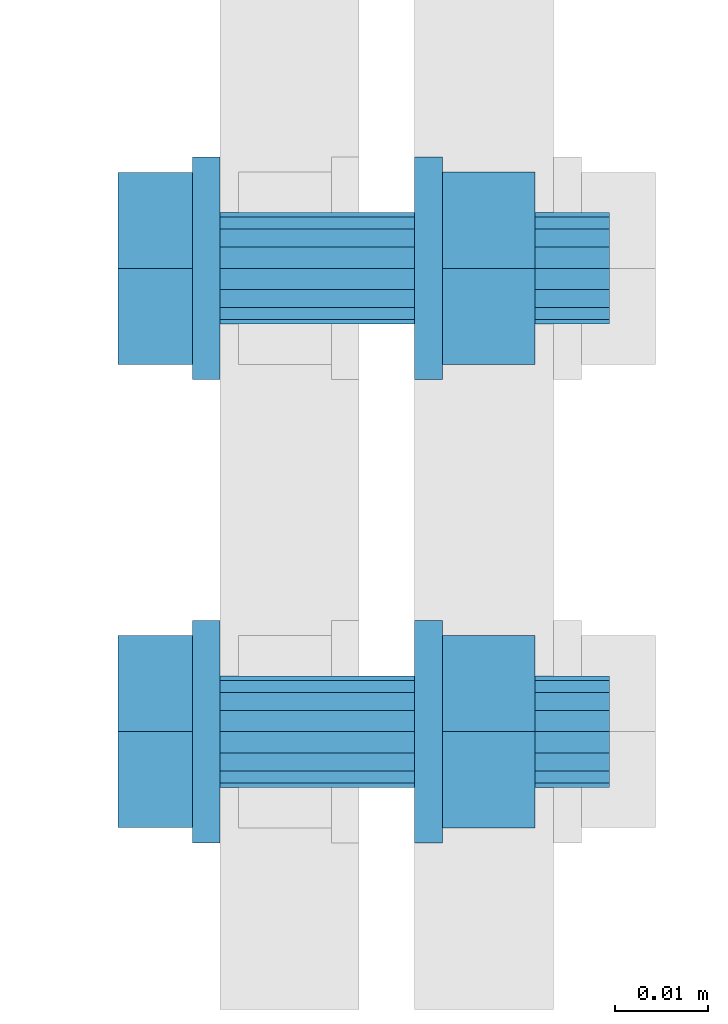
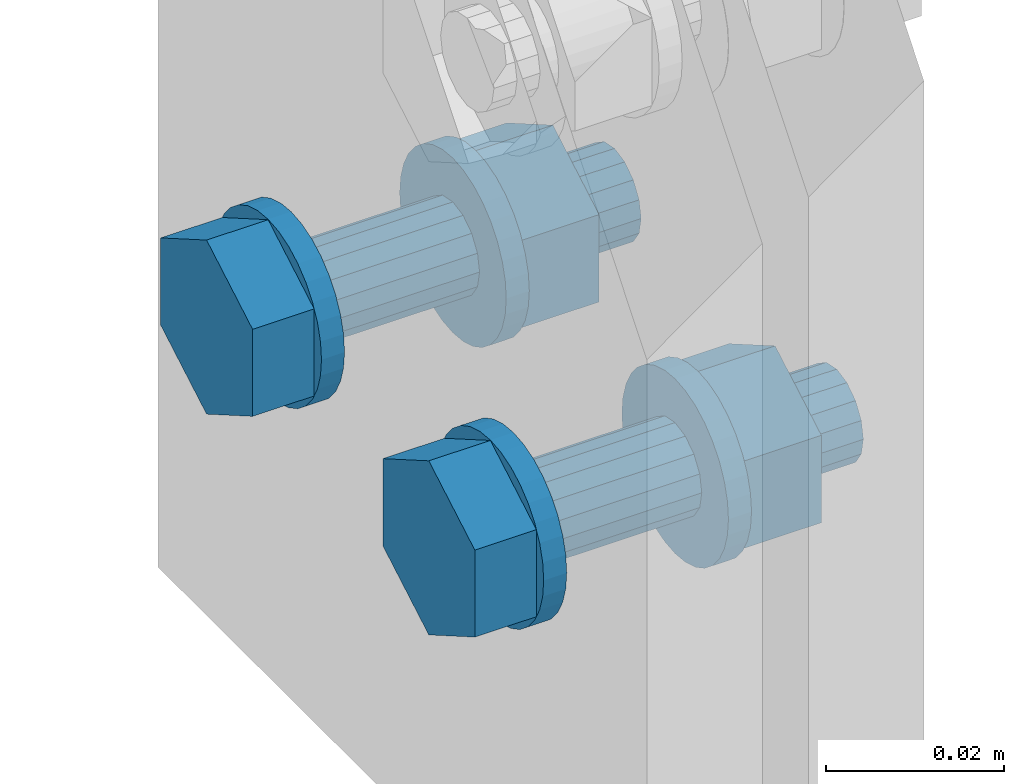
# One storey, part 9 of 13: 2 mechanical fasteners.
"""IFC4X3_ADD2 building model written with IfcOpenShell, lengths in millimetres."""

from ifc_helpers import new_model, entity, si_unit, converted_unit, derived_unit, direction, origin, place, context, project, spatial, faceted_brep, element, save


model = new_model("IFC4X3_ADD2")

# Units and contexts
model_context = context("Model", 3, precision=0.01, world=origin(), true_north=direction((6.123233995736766e-17, 1.0)))
plan_context = context("Plan", 3, precision=0.01, world=origin(), true_north=direction((6.123233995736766e-17, 1.0)))
ifc_project = project(units=[si_unit("LENGTHUNIT", "METRE", prefix="MILLI"), converted_unit("PLANEANGLEUNIT", "DEGREE", entity("IfcPlaneAngleMeasure", 0.017453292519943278), si_unit("PLANEANGLEUNIT", "RADIAN"), dimensions=[0, 0, 0, 0, 0, 0, 0]), si_unit("AREAUNIT", "SQUARE_METRE"), si_unit("VOLUMEUNIT", "CUBIC_METRE"), derived_unit("THERMALTRANSMITTANCEUNIT", [(si_unit("MASSUNIT", "GRAM", prefix="KILO"), 1), (si_unit("THERMODYNAMICTEMPERATUREUNIT", "KELVIN"), -1), (si_unit("TIMEUNIT", "SECOND"), -3)]), derived_unit("USERDEFINED", [(si_unit("MASSUNIT", "GRAM", prefix="KILO"), 1), (si_unit("THERMODYNAMICTEMPERATUREUNIT", "KELVIN"), -1), (si_unit("TIMEUNIT", "SECOND"), -2)]), derived_unit("THERMALRESISTANCEUNIT", [(si_unit("MASSUNIT", "GRAM", prefix="KILO"), -1), (si_unit("TIMEUNIT", "SECOND"), 3), (si_unit("THERMODYNAMICTEMPERATUREUNIT", "KELVIN"), 1)]), si_unit("MASSUNIT", "GRAM", prefix="KILO"), derived_unit("MOMENTOFINERTIAUNIT", [(si_unit("LENGTHUNIT", "METRE"), 4)]), derived_unit("LINEARFORCEUNIT", [(si_unit("MASSUNIT", "GRAM", prefix="KILO"), 1), (si_unit("TIMEUNIT", "SECOND"), -2)]), derived_unit("WARPINGCONSTANTUNIT", [(si_unit("LENGTHUNIT", "METRE"), 6)]), si_unit("PRESSUREUNIT", "PASCAL"), derived_unit("MASSDENSITYUNIT", [(si_unit("MASSUNIT", "GRAM", prefix="KILO"), 1), (si_unit("LENGTHUNIT", "METRE"), -3)]), derived_unit("MODULUSOFELASTICITYUNIT", [(si_unit("MASSUNIT", "GRAM", prefix="KILO"), 1), (si_unit("TIMEUNIT", "SECOND"), -2), (si_unit("LENGTHUNIT", "METRE"), -1)]), derived_unit("THERMALEXPANSIONCOEFFICIENTUNIT", [(si_unit("THERMODYNAMICTEMPERATUREUNIT", "KELVIN"), -1)]), derived_unit("VAPORPERMEABILITYUNIT", [(si_unit("LENGTHUNIT", "METRE"), -1), (si_unit("TIMEUNIT", "SECOND"), 1)]), derived_unit("USERDEFINED", [(si_unit("MASSUNIT", "GRAM", prefix="KILO"), 1), (si_unit("TIMEUNIT", "SECOND"), -3), (si_unit("LENGTHUNIT", "METRE"), 3), (si_unit("ELECTRICCURRENTUNIT", "AMPERE"), -2)]), derived_unit("SPECIFICHEATCAPACITYUNIT", [(si_unit("THERMODYNAMICTEMPERATUREUNIT", "KELVIN"), -1), (si_unit("TIMEUNIT", "SECOND"), -2), (si_unit("LENGTHUNIT", "METRE"), 2)]), derived_unit("THERMALCONDUCTANCEUNIT", [(si_unit("MASSUNIT", "GRAM", prefix="KILO"), 1), (si_unit("THERMODYNAMICTEMPERATUREUNIT", "KELVIN"), -1), (si_unit("TIMEUNIT", "SECOND"), -3), (si_unit("LENGTHUNIT", "METRE"), 1)])], contexts=[model_context, plan_context])

# Site, building, storey
site_placement = place(None, origin())
site = spatial("IfcSite", under=ifc_project, at=site_placement, Name="Default", CompositionType="ELEMENT")
building_placement = place(site_placement, origin())
building = spatial("IfcBuilding", under=site, at=building_placement, Name="Complex structure", CompositionType="ELEMENT")
storey_placement = place(building_placement, origin())
storey = spatial("IfcBuildingStorey", under=building, at=storey_placement, Name="Level 00", CompositionType="ELEMENT", Elevation=0.0)

# Mechanical fasteners
mechanical_fastener_1_placement = place(storey_placement, origin())
element("IfcMechanicalFastener", 1, at=mechanical_fastener_1_placement, inside=storey, ObjectType="Bolt#5", NominalDiameter=12.0, NominalLength=45.0, context=model_context, shape_type="Brep", body=[
    faceted_brep([(-5166.221550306, -1295.866703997, 2900.0), (-5163.221550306, -1295.866703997, 2900.0), (-5163.221550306, -1296.097280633, 2897.658916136), (-5166.221550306, -1296.097280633, 2897.658916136), (-5163.221550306, -1296.780149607, 2895.407798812), (-5166.221550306, -1296.780149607, 2895.407798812), (-5163.221550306, -1297.88906865, 2893.333157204), (-5166.221550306, -1297.88906865, 2893.333157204), (-5163.221550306, -1299.381422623, 2891.514718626), (-5166.221550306, -1299.381422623, 2891.514718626), (-5163.221550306, -1301.199861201, 2890.022364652), (-5166.221550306, -1301.199861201, 2890.022364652), (-5163.221550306, -1303.274502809, 2888.91344561), (-5166.221550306, -1303.274502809, 2888.91344561), (-5163.221550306, -1305.525620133, 2888.230576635), (-5166.221550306, -1305.525620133, 2888.230576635), (-5163.221550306, -1307.866703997, 2888.0), (-5166.221550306, -1307.866703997, 2888.0), (-5163.221550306, -1310.207787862, 2888.230576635), (-5166.221550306, -1310.207787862, 2888.230576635), (-5163.221550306, -1312.458905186, 2888.91344561), (-5166.221550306, -1312.458905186, 2888.91344561), (-5163.221550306, -1314.533546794, 2890.022364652), (-5166.221550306, -1314.533546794, 2890.022364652), (-5163.221550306, -1316.351985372, 2891.514718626), (-5166.221550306, -1316.351985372, 2891.514718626), (-5163.221550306, -1317.844339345, 2893.333157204), (-5166.221550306, -1317.844339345, 2893.333157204), (-5163.221550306, -1318.953258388, 2895.407798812), (-5166.221550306, -1318.953258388, 2895.407798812), (-5163.221550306, -1319.636127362, 2897.658916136), (-5166.221550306, -1319.636127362, 2897.658916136), (-5163.221550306, -1319.866703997, 2900.0), (-5166.221550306, -1319.866703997, 2900.0), (-5163.221550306, -1319.636127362, 2902.341083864), (-5166.221550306, -1319.636127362, 2902.341083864), (-5163.221550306, -1318.953258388, 2904.592201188), (-5166.221550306, -1318.953258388, 2904.592201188), (-5163.221550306, -1317.844339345, 2906.666842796), (-5166.221550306, -1317.844339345, 2906.666842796), (-5163.221550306, -1316.351985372, 2908.485281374), (-5166.221550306, -1316.351985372, 2908.485281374), (-5163.221550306, -1314.533546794, 2909.977635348), (-5166.221550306, -1314.533546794, 2909.977635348), (-5163.221550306, -1312.458905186, 2911.08655439), (-5166.221550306, -1312.458905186, 2911.08655439), (-5163.221550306, -1310.207787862, 2911.769423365), (-5166.221550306, -1310.207787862, 2911.769423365), (-5163.221550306, -1307.866703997, 2912.0), (-5166.221550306, -1307.866703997, 2912.0), (-5163.221550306, -1305.525620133, 2911.769423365), (-5166.221550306, -1305.525620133, 2911.769423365), (-5163.221550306, -1303.274502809, 2911.08655439), (-5166.221550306, -1303.274502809, 2911.08655439), (-5163.221550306, -1301.199861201, 2909.977635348), (-5166.221550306, -1301.199861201, 2909.977635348), (-5163.221550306, -1299.381422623, 2908.485281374), (-5166.221550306, -1299.381422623, 2908.485281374), (-5163.221550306, -1297.88906865, 2906.666842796), (-5166.221550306, -1297.88906865, 2906.666842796), (-5163.221550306, -1296.780149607, 2904.592201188), (-5166.221550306, -1296.780149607, 2904.592201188), (-5163.221550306, -1296.097280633, 2902.341083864), (-5166.221550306, -1296.097280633, 2902.341083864)], [[[0, 1, 2, 3]], [[3, 2, 4, 5]], [[5, 4, 6, 7]], [[7, 6, 8, 9]], [[9, 8, 10, 11]], [[11, 10, 12, 13]], [[13, 12, 14, 15]], [[15, 14, 16, 17]], [[17, 16, 18, 19]], [[19, 18, 20, 21]], [[21, 20, 22, 23]], [[23, 22, 24, 25]], [[25, 24, 26, 27]], [[27, 26, 28, 29]], [[29, 28, 30, 31]], [[31, 30, 32, 33]], [[33, 32, 34, 35]], [[35, 34, 36, 37]], [[37, 36, 38, 39]], [[39, 38, 40, 41]], [[41, 40, 42, 43]], [[43, 42, 44, 45]], [[45, 44, 46, 47]], [[47, 46, 48, 49]], [[49, 48, 50, 51]], [[51, 50, 52, 53]], [[53, 52, 54, 55]], [[55, 54, 56, 57]], [[57, 56, 58, 59]], [[59, 58, 60, 61]], [[61, 60, 62, 63]], [[63, 62, 1, 0]], [[0, 3, 5, 7, 9, 11, 13, 15, 17, 19, 21, 23, 25, 27, 29, 31, 33, 35, 37, 39, 41, 43, 45, 47, 49, 51, 53, 55, 57, 59, 61, 63]], [[1, 62, 60, 58, 56, 54, 52, 50, 48, 46, 44, 42, 40, 38, 36, 34, 32, 30, 28, 26, 24, 22, 20, 18, 16, 14, 12, 10, 8, 6, 4, 2]]]),
    faceted_brep([(-5166.221550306, -1318.2200377, 2894.0225), (-5174.221550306, -1318.2200377, 2894.0225), (-5174.221550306, -1307.866703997, 2888.045), (-5166.221550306, -1307.866703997, 2888.045), (-5174.221550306, -1297.513370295, 2894.0225), (-5166.221550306, -1297.513370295, 2894.0225), (-5174.221550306, -1297.513370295, 2905.9775), (-5166.221550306, -1297.513370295, 2905.9775), (-5174.221550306, -1307.866703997, 2911.955), (-5166.221550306, -1307.866703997, 2911.955), (-5174.221550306, -1318.2200377, 2905.9775), (-5166.221550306, -1318.2200377, 2905.9775)], [[[0, 1, 2, 3]], [[3, 2, 4, 5]], [[5, 4, 6, 7]], [[7, 6, 8, 9]], [[9, 8, 10, 11]], [[11, 10, 1, 0]], [[4, 2, 1, 10, 8, 6]], [[0, 3, 5, 7, 9, 11]]]),
    faceted_brep([(-5163.221550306, -1301.866703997, 2900.0), (-5142.221550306, -1301.866703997, 2900.0), (-5142.221550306, -1302.323426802, 2897.703899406), (-5163.221550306, -1302.323426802, 2897.703899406), (-5142.221550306, -1303.62406331, 2895.757359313), (-5163.221550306, -1303.62406331, 2895.757359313), (-5142.221550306, -1305.570603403, 2894.456722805), (-5163.221550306, -1305.570603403, 2894.456722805), (-5142.221550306, -1307.866703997, 2894.0), (-5163.221550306, -1307.866703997, 2894.0), (-5142.221550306, -1310.162804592, 2894.456722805), (-5163.221550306, -1310.162804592, 2894.456722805), (-5142.221550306, -1312.109344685, 2895.757359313), (-5163.221550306, -1312.109344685, 2895.757359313), (-5142.221550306, -1313.409981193, 2897.703899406), (-5163.221550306, -1313.409981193, 2897.703899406), (-5142.221550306, -1313.866703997, 2900.0), (-5163.221550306, -1313.866703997, 2900.0), (-5142.221550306, -1313.409981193, 2902.296100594), (-5163.221550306, -1313.409981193, 2902.296100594), (-5142.221550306, -1312.109344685, 2904.242640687), (-5163.221550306, -1312.109344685, 2904.242640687), (-5142.221550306, -1310.162804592, 2905.543277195), (-5163.221550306, -1310.162804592, 2905.543277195), (-5142.221550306, -1307.866703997, 2906.0), (-5163.221550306, -1307.866703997, 2906.0), (-5142.221550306, -1305.570603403, 2905.543277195), (-5163.221550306, -1305.570603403, 2905.543277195), (-5142.221550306, -1303.62406331, 2904.242640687), (-5163.221550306, -1303.62406331, 2904.242640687), (-5142.221550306, -1302.323426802, 2902.296100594), (-5163.221550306, -1302.323426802, 2902.296100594)], [[[0, 1, 2, 3]], [[3, 2, 4, 5]], [[5, 4, 6, 7]], [[7, 6, 8, 9]], [[9, 8, 10, 11]], [[11, 10, 12, 13]], [[13, 12, 14, 15]], [[15, 14, 16, 17]], [[17, 16, 18, 19]], [[19, 18, 20, 21]], [[21, 20, 22, 23]], [[23, 22, 24, 25]], [[25, 24, 26, 27]], [[27, 26, 28, 29]], [[29, 28, 30, 31]], [[31, 30, 1, 0]], [[0, 3, 5, 7, 9, 11, 13, 15, 17, 19, 21, 23, 25, 27, 29, 31]], [[1, 30, 28, 26, 24, 22, 20, 18, 16, 14, 12, 10, 8, 6, 4, 2]]]),
    faceted_brep([(-5142.221550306, -1295.866703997, 2900.0), (-5139.221550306, -1295.866703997, 2900.0), (-5139.221550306, -1296.097280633, 2897.658916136), (-5142.221550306, -1296.097280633, 2897.658916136), (-5139.221550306, -1296.780149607, 2895.407798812), (-5142.221550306, -1296.780149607, 2895.407798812), (-5139.221550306, -1297.88906865, 2893.333157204), (-5142.221550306, -1297.88906865, 2893.333157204), (-5139.221550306, -1299.381422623, 2891.514718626), (-5142.221550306, -1299.381422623, 2891.514718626), (-5139.221550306, -1301.199861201, 2890.022364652), (-5142.221550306, -1301.199861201, 2890.022364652), (-5139.221550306, -1303.274502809, 2888.91344561), (-5142.221550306, -1303.274502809, 2888.91344561), (-5139.221550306, -1305.525620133, 2888.230576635), (-5142.221550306, -1305.525620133, 2888.230576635), (-5139.221550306, -1307.866703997, 2888.0), (-5142.221550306, -1307.866703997, 2888.0), (-5139.221550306, -1310.207787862, 2888.230576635), (-5142.221550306, -1310.207787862, 2888.230576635), (-5139.221550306, -1312.458905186, 2888.91344561), (-5142.221550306, -1312.458905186, 2888.91344561), (-5139.221550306, -1314.533546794, 2890.022364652), (-5142.221550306, -1314.533546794, 2890.022364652), (-5139.221550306, -1316.351985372, 2891.514718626), (-5142.221550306, -1316.351985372, 2891.514718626), (-5139.221550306, -1317.844339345, 2893.333157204), (-5142.221550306, -1317.844339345, 2893.333157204), (-5139.221550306, -1318.953258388, 2895.407798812), (-5142.221550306, -1318.953258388, 2895.407798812), (-5139.221550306, -1319.636127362, 2897.658916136), (-5142.221550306, -1319.636127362, 2897.658916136), (-5139.221550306, -1319.866703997, 2900.0), (-5142.221550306, -1319.866703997, 2900.0), (-5139.221550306, -1319.636127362, 2902.341083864), (-5142.221550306, -1319.636127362, 2902.341083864), (-5139.221550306, -1318.953258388, 2904.592201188), (-5142.221550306, -1318.953258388, 2904.592201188), (-5139.221550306, -1317.844339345, 2906.666842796), (-5142.221550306, -1317.844339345, 2906.666842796), (-5139.221550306, -1316.351985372, 2908.485281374), (-5142.221550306, -1316.351985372, 2908.485281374), (-5139.221550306, -1314.533546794, 2909.977635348), (-5142.221550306, -1314.533546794, 2909.977635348), (-5139.221550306, -1312.458905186, 2911.08655439), (-5142.221550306, -1312.458905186, 2911.08655439), (-5139.221550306, -1310.207787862, 2911.769423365), (-5142.221550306, -1310.207787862, 2911.769423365), (-5139.221550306, -1307.866703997, 2912.0), (-5142.221550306, -1307.866703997, 2912.0), (-5139.221550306, -1305.525620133, 2911.769423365), (-5142.221550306, -1305.525620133, 2911.769423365), (-5139.221550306, -1303.274502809, 2911.08655439), (-5142.221550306, -1303.274502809, 2911.08655439), (-5139.221550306, -1301.199861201, 2909.977635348), (-5142.221550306, -1301.199861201, 2909.977635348), (-5139.221550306, -1299.381422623, 2908.485281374), (-5142.221550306, -1299.381422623, 2908.485281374), (-5139.221550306, -1297.88906865, 2906.666842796), (-5142.221550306, -1297.88906865, 2906.666842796), (-5139.221550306, -1296.780149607, 2904.592201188), (-5142.221550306, -1296.780149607, 2904.592201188), (-5139.221550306, -1296.097280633, 2902.341083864), (-5142.221550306, -1296.097280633, 2902.341083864)], [[[0, 1, 2, 3]], [[3, 2, 4, 5]], [[5, 4, 6, 7]], [[7, 6, 8, 9]], [[9, 8, 10, 11]], [[11, 10, 12, 13]], [[13, 12, 14, 15]], [[15, 14, 16, 17]], [[17, 16, 18, 19]], [[19, 18, 20, 21]], [[21, 20, 22, 23]], [[23, 22, 24, 25]], [[25, 24, 26, 27]], [[27, 26, 28, 29]], [[29, 28, 30, 31]], [[31, 30, 32, 33]], [[33, 32, 34, 35]], [[35, 34, 36, 37]], [[37, 36, 38, 39]], [[39, 38, 40, 41]], [[41, 40, 42, 43]], [[43, 42, 44, 45]], [[45, 44, 46, 47]], [[47, 46, 48, 49]], [[49, 48, 50, 51]], [[51, 50, 52, 53]], [[53, 52, 54, 55]], [[55, 54, 56, 57]], [[57, 56, 58, 59]], [[59, 58, 60, 61]], [[61, 60, 62, 63]], [[63, 62, 1, 0]], [[0, 3, 5, 7, 9, 11, 13, 15, 17, 19, 21, 23, 25, 27, 29, 31, 33, 35, 37, 39, 41, 43, 45, 47, 49, 51, 53, 55, 57, 59, 61, 63]], [[1, 62, 60, 58, 56, 54, 52, 50, 48, 46, 44, 42, 40, 38, 36, 34, 32, 30, 28, 26, 24, 22, 20, 18, 16, 14, 12, 10, 8, 6, 4, 2]]]),
    faceted_brep([(-5129.221550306, -1318.259008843, 2894.0), (-5139.221550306, -1318.259008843, 2894.0), (-5139.221550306, -1307.866703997, 2888.0), (-5129.221550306, -1307.866703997, 2888.0), (-5139.221550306, -1297.474399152, 2894.0), (-5129.221550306, -1297.474399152, 2894.0), (-5139.221550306, -1297.474399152, 2906.0), (-5129.221550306, -1297.474399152, 2906.0), (-5139.221550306, -1307.866703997, 2912.0), (-5129.221550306, -1307.866703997, 2912.0), (-5139.221550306, -1318.259008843, 2906.0), (-5129.221550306, -1318.259008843, 2906.0)], [[[0, 1, 2, 3]], [[3, 2, 4, 5]], [[5, 4, 6, 7]], [[7, 6, 8, 9]], [[9, 8, 10, 11]], [[11, 10, 1, 0]], [[4, 2, 1, 10, 8, 6]], [[0, 3, 5, 7, 9, 11]]]),
    faceted_brep([(-5129.221550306, -1301.866703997, 2900.0), (-5121.221550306, -1301.866703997, 2900.0), (-5121.221550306, -1302.323426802, 2897.703899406), (-5129.221550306, -1302.323426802, 2897.703899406), (-5121.221550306, -1303.62406331, 2895.757359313), (-5129.221550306, -1303.62406331, 2895.757359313), (-5121.221550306, -1305.570603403, 2894.456722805), (-5129.221550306, -1305.570603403, 2894.456722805), (-5121.221550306, -1307.866703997, 2894.0), (-5129.221550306, -1307.866703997, 2894.0), (-5121.221550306, -1310.162804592, 2894.456722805), (-5129.221550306, -1310.162804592, 2894.456722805), (-5121.221550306, -1312.109344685, 2895.757359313), (-5129.221550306, -1312.109344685, 2895.757359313), (-5121.221550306, -1313.409981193, 2897.703899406), (-5129.221550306, -1313.409981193, 2897.703899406), (-5121.221550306, -1313.866703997, 2900.0), (-5129.221550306, -1313.866703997, 2900.0), (-5121.221550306, -1313.409981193, 2902.296100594), (-5129.221550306, -1313.409981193, 2902.296100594), (-5121.221550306, -1312.109344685, 2904.242640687), (-5129.221550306, -1312.109344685, 2904.242640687), (-5121.221550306, -1310.162804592, 2905.543277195), (-5129.221550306, -1310.162804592, 2905.543277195), (-5121.221550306, -1307.866703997, 2906.0), (-5129.221550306, -1307.866703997, 2906.0), (-5121.221550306, -1305.570603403, 2905.543277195), (-5129.221550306, -1305.570603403, 2905.543277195), (-5121.221550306, -1303.62406331, 2904.242640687), (-5129.221550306, -1303.62406331, 2904.242640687), (-5121.221550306, -1302.323426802, 2902.296100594), (-5129.221550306, -1302.323426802, 2902.296100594)], [[[0, 1, 2, 3]], [[3, 2, 4, 5]], [[5, 4, 6, 7]], [[7, 6, 8, 9]], [[9, 8, 10, 11]], [[11, 10, 12, 13]], [[13, 12, 14, 15]], [[15, 14, 16, 17]], [[17, 16, 18, 19]], [[19, 18, 20, 21]], [[21, 20, 22, 23]], [[23, 22, 24, 25]], [[25, 24, 26, 27]], [[27, 26, 28, 29]], [[29, 28, 30, 31]], [[31, 30, 1, 0]], [[0, 3, 5, 7, 9, 11, 13, 15, 17, 19, 21, 23, 25, 27, 29, 31]], [[1, 30, 28, 26, 24, 22, 20, 18, 16, 14, 12, 10, 8, 6, 4, 2]]]),
])
mechanical_fastener_2_placement = place(storey_placement, origin())
element("IfcMechanicalFastener", 2, at=mechanical_fastener_2_placement, inside=storey, ObjectType="Bolt#6", NominalDiameter=12.0, NominalLength=45.0, context=model_context, shape_type="Brep", body=[
    faceted_brep([(-5166.221550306, -1269.866703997, 2900.0), (-5163.221550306, -1269.866703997, 2900.0), (-5163.221550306, -1269.636127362, 2902.341083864), (-5166.221550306, -1269.636127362, 2902.341083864), (-5163.221550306, -1268.953258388, 2904.592201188), (-5166.221550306, -1268.953258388, 2904.592201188), (-5163.221550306, -1267.844339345, 2906.666842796), (-5166.221550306, -1267.844339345, 2906.666842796), (-5163.221550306, -1266.351985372, 2908.485281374), (-5166.221550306, -1266.351985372, 2908.485281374), (-5163.221550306, -1264.533546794, 2909.977635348), (-5166.221550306, -1264.533546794, 2909.977635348), (-5163.221550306, -1262.458905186, 2911.08655439), (-5166.221550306, -1262.458905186, 2911.08655439), (-5163.221550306, -1260.207787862, 2911.769423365), (-5166.221550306, -1260.207787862, 2911.769423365), (-5163.221550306, -1257.866703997, 2912.0), (-5166.221550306, -1257.866703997, 2912.0), (-5163.221550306, -1255.525620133, 2911.769423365), (-5166.221550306, -1255.525620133, 2911.769423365), (-5163.221550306, -1253.274502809, 2911.08655439), (-5166.221550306, -1253.274502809, 2911.08655439), (-5163.221550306, -1251.199861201, 2909.977635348), (-5166.221550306, -1251.199861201, 2909.977635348), (-5163.221550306, -1249.381422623, 2908.485281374), (-5166.221550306, -1249.381422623, 2908.485281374), (-5163.221550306, -1247.88906865, 2906.666842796), (-5166.221550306, -1247.88906865, 2906.666842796), (-5163.221550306, -1246.780149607, 2904.592201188), (-5166.221550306, -1246.780149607, 2904.592201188), (-5163.221550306, -1246.097280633, 2902.341083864), (-5166.221550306, -1246.097280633, 2902.341083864), (-5163.221550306, -1245.866703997, 2900.0), (-5166.221550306, -1245.866703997, 2900.0), (-5163.221550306, -1246.097280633, 2897.658916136), (-5166.221550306, -1246.097280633, 2897.658916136), (-5163.221550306, -1246.780149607, 2895.407798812), (-5166.221550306, -1246.780149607, 2895.407798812), (-5163.221550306, -1247.88906865, 2893.333157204), (-5166.221550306, -1247.88906865, 2893.333157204), (-5163.221550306, -1249.381422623, 2891.514718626), (-5166.221550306, -1249.381422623, 2891.514718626), (-5163.221550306, -1251.199861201, 2890.022364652), (-5166.221550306, -1251.199861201, 2890.022364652), (-5163.221550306, -1253.274502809, 2888.91344561), (-5166.221550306, -1253.274502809, 2888.91344561), (-5163.221550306, -1255.525620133, 2888.230576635), (-5166.221550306, -1255.525620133, 2888.230576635), (-5163.221550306, -1257.866703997, 2888.0), (-5166.221550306, -1257.866703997, 2888.0), (-5163.221550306, -1260.207787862, 2888.230576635), (-5166.221550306, -1260.207787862, 2888.230576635), (-5163.221550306, -1262.458905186, 2888.91344561), (-5166.221550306, -1262.458905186, 2888.91344561), (-5163.221550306, -1264.533546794, 2890.022364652), (-5166.221550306, -1264.533546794, 2890.022364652), (-5163.221550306, -1266.351985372, 2891.514718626), (-5166.221550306, -1266.351985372, 2891.514718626), (-5163.221550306, -1267.844339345, 2893.333157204), (-5166.221550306, -1267.844339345, 2893.333157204), (-5163.221550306, -1268.953258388, 2895.407798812), (-5166.221550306, -1268.953258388, 2895.407798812), (-5163.221550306, -1269.636127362, 2897.658916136), (-5166.221550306, -1269.636127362, 2897.658916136)], [[[0, 1, 2, 3]], [[3, 2, 4, 5]], [[5, 4, 6, 7]], [[7, 6, 8, 9]], [[9, 8, 10, 11]], [[11, 10, 12, 13]], [[13, 12, 14, 15]], [[15, 14, 16, 17]], [[17, 16, 18, 19]], [[19, 18, 20, 21]], [[21, 20, 22, 23]], [[23, 22, 24, 25]], [[25, 24, 26, 27]], [[27, 26, 28, 29]], [[29, 28, 30, 31]], [[31, 30, 32, 33]], [[33, 32, 34, 35]], [[35, 34, 36, 37]], [[37, 36, 38, 39]], [[39, 38, 40, 41]], [[41, 40, 42, 43]], [[43, 42, 44, 45]], [[45, 44, 46, 47]], [[47, 46, 48, 49]], [[49, 48, 50, 51]], [[51, 50, 52, 53]], [[53, 52, 54, 55]], [[55, 54, 56, 57]], [[57, 56, 58, 59]], [[59, 58, 60, 61]], [[61, 60, 62, 63]], [[63, 62, 1, 0]], [[0, 3, 5, 7, 9, 11, 13, 15, 17, 19, 21, 23, 25, 27, 29, 31, 33, 35, 37, 39, 41, 43, 45, 47, 49, 51, 53, 55, 57, 59, 61, 63]], [[1, 62, 60, 58, 56, 54, 52, 50, 48, 46, 44, 42, 40, 38, 36, 34, 32, 30, 28, 26, 24, 22, 20, 18, 16, 14, 12, 10, 8, 6, 4, 2]]]),
    faceted_brep([(-5166.221550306, -1247.513370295, 2905.9775), (-5174.221550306, -1247.513370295, 2905.9775), (-5174.221550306, -1257.866703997, 2911.955), (-5166.221550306, -1257.866703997, 2911.955), (-5174.221550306, -1268.2200377, 2905.9775), (-5166.221550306, -1268.2200377, 2905.9775), (-5174.221550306, -1268.2200377, 2894.0225), (-5166.221550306, -1268.2200377, 2894.0225), (-5174.221550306, -1257.866703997, 2888.045), (-5166.221550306, -1257.866703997, 2888.045), (-5174.221550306, -1247.513370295, 2894.0225), (-5166.221550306, -1247.513370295, 2894.0225)], [[[0, 1, 2, 3]], [[3, 2, 4, 5]], [[5, 4, 6, 7]], [[7, 6, 8, 9]], [[9, 8, 10, 11]], [[11, 10, 1, 0]], [[4, 2, 1, 10, 8, 6]], [[0, 3, 5, 7, 9, 11]]]),
    faceted_brep([(-5163.221550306, -1263.866703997, 2900.0), (-5142.221550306, -1263.866703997, 2900.0), (-5142.221550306, -1263.409981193, 2902.296100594), (-5163.221550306, -1263.409981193, 2902.296100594), (-5142.221550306, -1262.109344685, 2904.242640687), (-5163.221550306, -1262.109344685, 2904.242640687), (-5142.221550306, -1260.162804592, 2905.543277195), (-5163.221550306, -1260.162804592, 2905.543277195), (-5142.221550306, -1257.866703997, 2906.0), (-5163.221550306, -1257.866703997, 2906.0), (-5142.221550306, -1255.570603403, 2905.543277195), (-5163.221550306, -1255.570603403, 2905.543277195), (-5142.221550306, -1253.62406331, 2904.242640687), (-5163.221550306, -1253.62406331, 2904.242640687), (-5142.221550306, -1252.323426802, 2902.296100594), (-5163.221550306, -1252.323426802, 2902.296100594), (-5142.221550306, -1251.866703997, 2900.0), (-5163.221550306, -1251.866703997, 2900.0), (-5142.221550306, -1252.323426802, 2897.703899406), (-5163.221550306, -1252.323426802, 2897.703899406), (-5142.221550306, -1253.62406331, 2895.757359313), (-5163.221550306, -1253.62406331, 2895.757359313), (-5142.221550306, -1255.570603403, 2894.456722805), (-5163.221550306, -1255.570603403, 2894.456722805), (-5142.221550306, -1257.866703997, 2894.0), (-5163.221550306, -1257.866703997, 2894.0), (-5142.221550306, -1260.162804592, 2894.456722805), (-5163.221550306, -1260.162804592, 2894.456722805), (-5142.221550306, -1262.109344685, 2895.757359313), (-5163.221550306, -1262.109344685, 2895.757359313), (-5142.221550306, -1263.409981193, 2897.703899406), (-5163.221550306, -1263.409981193, 2897.703899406)], [[[0, 1, 2, 3]], [[3, 2, 4, 5]], [[5, 4, 6, 7]], [[7, 6, 8, 9]], [[9, 8, 10, 11]], [[11, 10, 12, 13]], [[13, 12, 14, 15]], [[15, 14, 16, 17]], [[17, 16, 18, 19]], [[19, 18, 20, 21]], [[21, 20, 22, 23]], [[23, 22, 24, 25]], [[25, 24, 26, 27]], [[27, 26, 28, 29]], [[29, 28, 30, 31]], [[31, 30, 1, 0]], [[0, 3, 5, 7, 9, 11, 13, 15, 17, 19, 21, 23, 25, 27, 29, 31]], [[1, 30, 28, 26, 24, 22, 20, 18, 16, 14, 12, 10, 8, 6, 4, 2]]]),
    faceted_brep([(-5142.221550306, -1269.866703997, 2900.0), (-5139.221550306, -1269.866703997, 2900.0), (-5139.221550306, -1269.636127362, 2902.341083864), (-5142.221550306, -1269.636127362, 2902.341083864), (-5139.221550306, -1268.953258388, 2904.592201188), (-5142.221550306, -1268.953258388, 2904.592201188), (-5139.221550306, -1267.844339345, 2906.666842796), (-5142.221550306, -1267.844339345, 2906.666842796), (-5139.221550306, -1266.351985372, 2908.485281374), (-5142.221550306, -1266.351985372, 2908.485281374), (-5139.221550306, -1264.533546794, 2909.977635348), (-5142.221550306, -1264.533546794, 2909.977635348), (-5139.221550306, -1262.458905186, 2911.08655439), (-5142.221550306, -1262.458905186, 2911.08655439), (-5139.221550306, -1260.207787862, 2911.769423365), (-5142.221550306, -1260.207787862, 2911.769423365), (-5139.221550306, -1257.866703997, 2912.0), (-5142.221550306, -1257.866703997, 2912.0), (-5139.221550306, -1255.525620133, 2911.769423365), (-5142.221550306, -1255.525620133, 2911.769423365), (-5139.221550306, -1253.274502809, 2911.08655439), (-5142.221550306, -1253.274502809, 2911.08655439), (-5139.221550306, -1251.199861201, 2909.977635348), (-5142.221550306, -1251.199861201, 2909.977635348), (-5139.221550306, -1249.381422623, 2908.485281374), (-5142.221550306, -1249.381422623, 2908.485281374), (-5139.221550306, -1247.88906865, 2906.666842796), (-5142.221550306, -1247.88906865, 2906.666842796), (-5139.221550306, -1246.780149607, 2904.592201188), (-5142.221550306, -1246.780149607, 2904.592201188), (-5139.221550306, -1246.097280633, 2902.341083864), (-5142.221550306, -1246.097280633, 2902.341083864), (-5139.221550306, -1245.866703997, 2900.0), (-5142.221550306, -1245.866703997, 2900.0), (-5139.221550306, -1246.097280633, 2897.658916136), (-5142.221550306, -1246.097280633, 2897.658916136), (-5139.221550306, -1246.780149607, 2895.407798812), (-5142.221550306, -1246.780149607, 2895.407798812), (-5139.221550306, -1247.88906865, 2893.333157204), (-5142.221550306, -1247.88906865, 2893.333157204), (-5139.221550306, -1249.381422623, 2891.514718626), (-5142.221550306, -1249.381422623, 2891.514718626), (-5139.221550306, -1251.199861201, 2890.022364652), (-5142.221550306, -1251.199861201, 2890.022364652), (-5139.221550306, -1253.274502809, 2888.91344561), (-5142.221550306, -1253.274502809, 2888.91344561), (-5139.221550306, -1255.525620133, 2888.230576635), (-5142.221550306, -1255.525620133, 2888.230576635), (-5139.221550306, -1257.866703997, 2888.0), (-5142.221550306, -1257.866703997, 2888.0), (-5139.221550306, -1260.207787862, 2888.230576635), (-5142.221550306, -1260.207787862, 2888.230576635), (-5139.221550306, -1262.458905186, 2888.91344561), (-5142.221550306, -1262.458905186, 2888.91344561), (-5139.221550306, -1264.533546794, 2890.022364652), (-5142.221550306, -1264.533546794, 2890.022364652), (-5139.221550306, -1266.351985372, 2891.514718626), (-5142.221550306, -1266.351985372, 2891.514718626), (-5139.221550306, -1267.844339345, 2893.333157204), (-5142.221550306, -1267.844339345, 2893.333157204), (-5139.221550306, -1268.953258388, 2895.407798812), (-5142.221550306, -1268.953258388, 2895.407798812), (-5139.221550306, -1269.636127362, 2897.658916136), (-5142.221550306, -1269.636127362, 2897.658916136)], [[[0, 1, 2, 3]], [[3, 2, 4, 5]], [[5, 4, 6, 7]], [[7, 6, 8, 9]], [[9, 8, 10, 11]], [[11, 10, 12, 13]], [[13, 12, 14, 15]], [[15, 14, 16, 17]], [[17, 16, 18, 19]], [[19, 18, 20, 21]], [[21, 20, 22, 23]], [[23, 22, 24, 25]], [[25, 24, 26, 27]], [[27, 26, 28, 29]], [[29, 28, 30, 31]], [[31, 30, 32, 33]], [[33, 32, 34, 35]], [[35, 34, 36, 37]], [[37, 36, 38, 39]], [[39, 38, 40, 41]], [[41, 40, 42, 43]], [[43, 42, 44, 45]], [[45, 44, 46, 47]], [[47, 46, 48, 49]], [[49, 48, 50, 51]], [[51, 50, 52, 53]], [[53, 52, 54, 55]], [[55, 54, 56, 57]], [[57, 56, 58, 59]], [[59, 58, 60, 61]], [[61, 60, 62, 63]], [[63, 62, 1, 0]], [[0, 3, 5, 7, 9, 11, 13, 15, 17, 19, 21, 23, 25, 27, 29, 31, 33, 35, 37, 39, 41, 43, 45, 47, 49, 51, 53, 55, 57, 59, 61, 63]], [[1, 62, 60, 58, 56, 54, 52, 50, 48, 46, 44, 42, 40, 38, 36, 34, 32, 30, 28, 26, 24, 22, 20, 18, 16, 14, 12, 10, 8, 6, 4, 2]]]),
    faceted_brep([(-5129.221550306, -1247.474399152, 2906.0), (-5139.221550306, -1247.474399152, 2906.0), (-5139.221550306, -1257.866703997, 2912.0), (-5129.221550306, -1257.866703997, 2912.0), (-5139.221550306, -1268.259008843, 2906.0), (-5129.221550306, -1268.259008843, 2906.0), (-5139.221550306, -1268.259008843, 2894.0), (-5129.221550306, -1268.259008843, 2894.0), (-5139.221550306, -1257.866703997, 2888.0), (-5129.221550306, -1257.866703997, 2888.0), (-5139.221550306, -1247.474399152, 2894.0), (-5129.221550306, -1247.474399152, 2894.0)], [[[0, 1, 2, 3]], [[3, 2, 4, 5]], [[5, 4, 6, 7]], [[7, 6, 8, 9]], [[9, 8, 10, 11]], [[11, 10, 1, 0]], [[4, 2, 1, 10, 8, 6]], [[0, 3, 5, 7, 9, 11]]]),
    faceted_brep([(-5129.221550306, -1263.866703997, 2900.0), (-5121.221550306, -1263.866703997, 2900.0), (-5121.221550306, -1263.409981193, 2902.296100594), (-5129.221550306, -1263.409981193, 2902.296100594), (-5121.221550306, -1262.109344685, 2904.242640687), (-5129.221550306, -1262.109344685, 2904.242640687), (-5121.221550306, -1260.162804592, 2905.543277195), (-5129.221550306, -1260.162804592, 2905.543277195), (-5121.221550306, -1257.866703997, 2906.0), (-5129.221550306, -1257.866703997, 2906.0), (-5121.221550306, -1255.570603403, 2905.543277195), (-5129.221550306, -1255.570603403, 2905.543277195), (-5121.221550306, -1253.62406331, 2904.242640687), (-5129.221550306, -1253.62406331, 2904.242640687), (-5121.221550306, -1252.323426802, 2902.296100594), (-5129.221550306, -1252.323426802, 2902.296100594), (-5121.221550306, -1251.866703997, 2900.0), (-5129.221550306, -1251.866703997, 2900.0), (-5121.221550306, -1252.323426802, 2897.703899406), (-5129.221550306, -1252.323426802, 2897.703899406), (-5121.221550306, -1253.62406331, 2895.757359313), (-5129.221550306, -1253.62406331, 2895.757359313), (-5121.221550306, -1255.570603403, 2894.456722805), (-5129.221550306, -1255.570603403, 2894.456722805), (-5121.221550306, -1257.866703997, 2894.0), (-5129.221550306, -1257.866703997, 2894.0), (-5121.221550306, -1260.162804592, 2894.456722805), (-5129.221550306, -1260.162804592, 2894.456722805), (-5121.221550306, -1262.109344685, 2895.757359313), (-5129.221550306, -1262.109344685, 2895.757359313), (-5121.221550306, -1263.409981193, 2897.703899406), (-5129.221550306, -1263.409981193, 2897.703899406)], [[[0, 1, 2, 3]], [[3, 2, 4, 5]], [[5, 4, 6, 7]], [[7, 6, 8, 9]], [[9, 8, 10, 11]], [[11, 10, 12, 13]], [[13, 12, 14, 15]], [[15, 14, 16, 17]], [[17, 16, 18, 19]], [[19, 18, 20, 21]], [[21, 20, 22, 23]], [[23, 22, 24, 25]], [[25, 24, 26, 27]], [[27, 26, 28, 29]], [[29, 28, 30, 31]], [[31, 30, 1, 0]], [[0, 3, 5, 7, 9, 11, 13, 15, 17, 19, 21, 23, 25, 27, 29, 31]], [[1, 30, 28, 26, 24, 22, 20, 18, 16, 14, 12, 10, 8, 6, 4, 2]]]),
])

save(model, "model.ifc")
